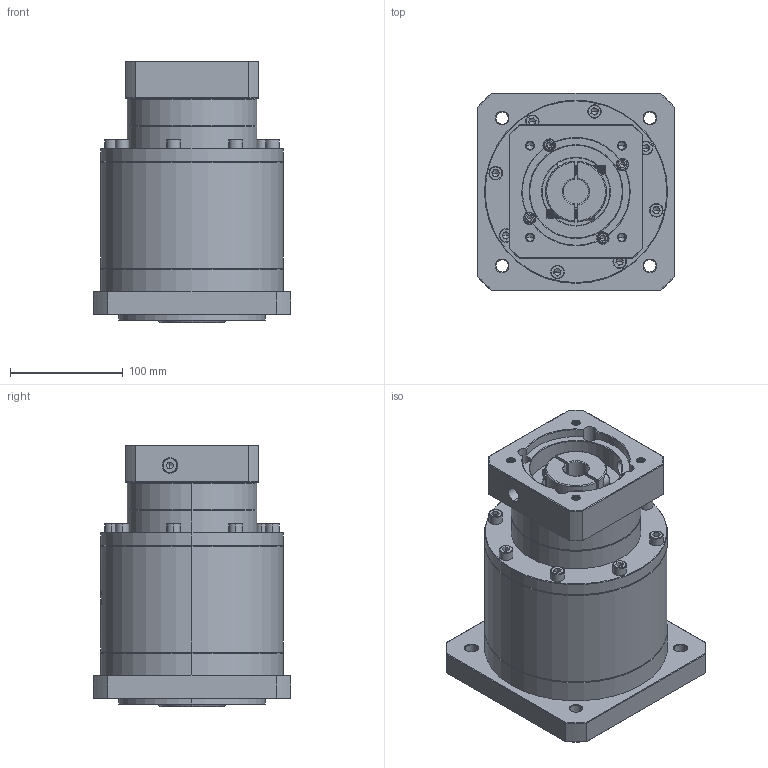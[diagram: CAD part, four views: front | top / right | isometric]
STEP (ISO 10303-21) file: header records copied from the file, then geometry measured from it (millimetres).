
FILE_DESCRIPTION (( 'STEP AP214' ), '1' );
FILE_NAME ('ZF160-K35-L3-22-95-115-M8.step', '2023-03-22T04:00:17', ( '' ), ( '' ), 'SwSTEP 2.0', 'SolidWorks 2016', '' );
FILE_SCHEMA (( 'AUTOMOTIVE_DESIGN' ));
Length unit declared in the file: millimetre
Products named in the file (1): ZF160-K35-L3-22-95-115-M8
Bounding box: 175 x 175 x 231.7 mm (x, y, z)
Volume: 3951156.9 mm3; surface area: 268685.8 mm2
Topology: 6 solids, 6 shells, 1813 faces, 4577 edges, 2885 vertices
Faces by surface type: plane 739, cylinder 454, cone 359, bspline 225, torus 36
Entity records: 93032 total; most frequent: CARTESIAN_POINT 31733, ORIENTED_EDGE 9050, DIRECTION 7961, EDGE_CURVE 4525, VERTEX_POINT 2885, AXIS2_PLACEMENT_3D 2758, LINE 2445, VECTOR 2445
